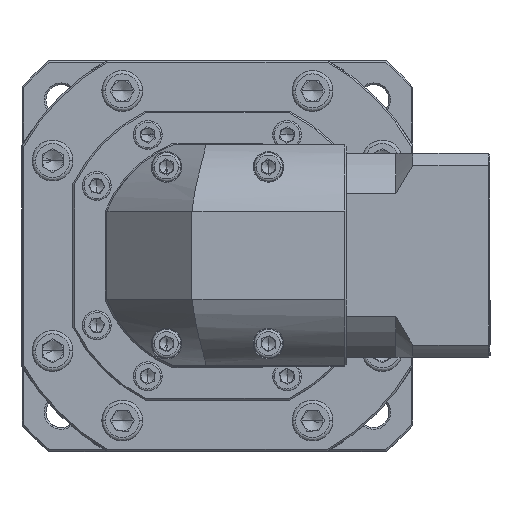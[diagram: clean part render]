
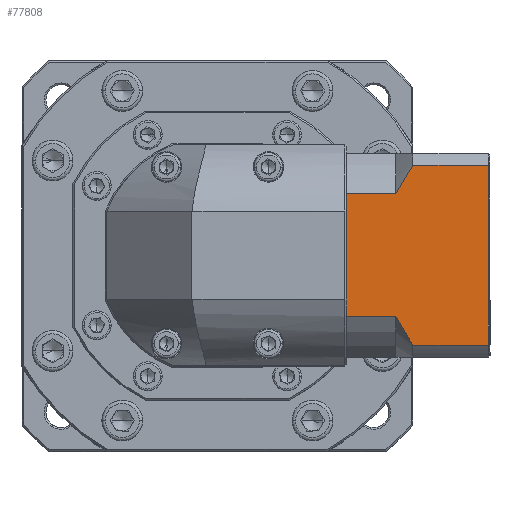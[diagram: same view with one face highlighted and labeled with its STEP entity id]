
A CAD part, top view. The second image highlights one B-rep face of the part: STEP entity #77808.
In plain terms, the highlighted planar face has unit normal (0, 0, 1).
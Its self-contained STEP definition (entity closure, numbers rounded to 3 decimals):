
#717 = CARTESIAN_POINT ( 'NONE',  ( 123.638, 102.636, 59.081 ) ) ;
#4043 = CARTESIAN_POINT ( 'NONE',  ( 122.088, 105.518, 59.081 ) ) ;
#4063 = CARTESIAN_POINT ( 'NONE',  ( 149.788, 153.545, 59.081 ) ) ;
#5498 = PLANE ( 'NONE',  #126817 ) ;
#10499 = EDGE_CURVE ( 'NONE', #103596, #23905, #143465, .T. ) ;
#12396 = CARTESIAN_POINT ( 'NONE',  ( 122.838, 104.061, 59.081 ) ) ;
#12891 = CARTESIAN_POINT ( 'NONE',  ( 125.313, 99.83, 59.081 ) ) ;
#16678 = VECTOR ( 'NONE', #102355, 1000. ) ;
#17435 = CARTESIAN_POINT ( 'NONE',  ( 122.088, 97.088, 59.081 ) ) ;
#18551 = CARTESIAN_POINT ( 'NONE',  ( 127.088, 150.003, 59.081 ) ) ;
#18565 = DIRECTION ( 'NONE',  ( 0., 1., 0. ) ) ;
#19890 = LINE ( 'NONE', #129622, #23407 ) ;
#22356 = VECTOR ( 'NONE', #84756, 1000. ) ;
#23407 = VECTOR ( 'NONE', #18565, 1000. ) ;
#23565 = ORIENTED_EDGE ( 'NONE', *, *, #142691, .T. ) ;
#23905 = VERTEX_POINT ( 'NONE', #34164 ) ;
#24119 = CARTESIAN_POINT ( 'NONE',  ( 126.186, 98.451, 59.081 ) ) ;
#25032 = CARTESIAN_POINT ( 'NONE',  ( 149.288, 150.003, 59.081 ) ) ;
#26713 = CARTESIAN_POINT ( 'NONE',  ( 122.088, 141.573, 59.081 ) ) ;
#27675 = CARTESIAN_POINT ( 'NONE',  ( 122.088, 150.003, 59.081 ) ) ;
#34164 = CARTESIAN_POINT ( 'NONE',  ( 107.588, 140.582, 59.081 ) ) ;
#35835 = EDGE_CURVE ( 'NONE', #89180, #75181, #131184, .T. ) ;
#40239 = DIRECTION ( 'NONE',  ( 0., -1., 0. ) ) ;
#45626 = EDGE_CURVE ( 'NONE', #114085, #131891, #68449, .T. ) ;
#47890 = VECTOR ( 'NONE', #61459, 1000. ) ;
#48766 = EDGE_LOOP ( 'NONE', ( #132181, #114292, #85849, #92694, #129008, #118082, #23565, #114704, #127484, #90335 ) ) ;
#49579 = VERTEX_POINT ( 'NONE', #25032 ) ;
#52738 = EDGE_CURVE ( 'NONE', #127816, #49579, #19890, .T. ) ;
#55397 = CARTESIAN_POINT ( 'NONE',  ( 127.088, 97.088, 59.081 ) ) ;
#57493 = VERTEX_POINT ( 'NONE', #73247 ) ;
#57844 = DIRECTION ( 'NONE',  ( 0., -1., 0. ) ) ;
#61459 = DIRECTION ( 'NONE',  ( -1., 0., 0. ) ) ;
#62553 = CARTESIAN_POINT ( 'NONE',  ( 123.639, 144.457, 59.081 ) ) ;
#62694 = CARTESIAN_POINT ( 'NONE',  ( 122.088, 141.573, 59.081 ) ) ;
#63449 = VERTEX_POINT ( 'NONE', #75404 ) ;
#68449 = B_SPLINE_CURVE_WITH_KNOTS ( 'NONE', 3,
 ( #18551, #119279, #86034, #62553, #118309, #84126 ),
 .UNSPECIFIED., .F., .F.,
 ( 4, 2, 4 ),
 ( 0.052, 0.057, 0.062 ),
 .UNSPECIFIED. ) ;
#69705 = EDGE_CURVE ( 'NONE', #89180, #63449, #81405, .T. ) ;
#70608 = CARTESIAN_POINT ( 'NONE',  ( 107.588, 141.573, 59.081 ) ) ;
#73042 = DIRECTION ( 'NONE',  ( 0., -1., 0. ) ) ;
#73247 = CARTESIAN_POINT ( 'NONE',  ( 107.588, 106.509, 59.081 ) ) ;
#75181 = VERTEX_POINT ( 'NONE', #81944 ) ;
#75404 = CARTESIAN_POINT ( 'NONE',  ( 107.588, 105.518, 59.081 ) ) ;
#75695 = VECTOR ( 'NONE', #40239, 1000. ) ;
#76897 = VECTOR ( 'NONE', #140637, 1000. ) ;
#77808 = ADVANCED_FACE ( 'NONE', ( #125821 ), #5498, .F. ) ;
#81405 = LINE ( 'NONE', #115129, #16678 ) ;
#81913 = LINE ( 'NONE', #62694, #22356 ) ;
#81944 = CARTESIAN_POINT ( 'NONE',  ( 127.088, 97.088, 59.081 ) ) ;
#82287 = DIRECTION ( 'NONE',  ( 1., 0., 0. ) ) ;
#83344 = CARTESIAN_POINT ( 'NONE',  ( 107.588, 153.545, 59.081 ) ) ;
#84126 = CARTESIAN_POINT ( 'NONE',  ( 122.088, 141.573, 59.081 ) ) ;
#84431 = LINE ( 'NONE', #131218, #75695 ) ;
#84756 = DIRECTION ( 'NONE',  ( 1., 0., 0. ) ) ;
#85849 = ORIENTED_EDGE ( 'NONE', *, *, #96041, .F. ) ;
#86034 = CARTESIAN_POINT ( 'NONE',  ( 125.315, 147.264, 59.081 ) ) ;
#89180 = VERTEX_POINT ( 'NONE', #4043 ) ;
#90335 = ORIENTED_EDGE ( 'NONE', *, *, #35835, .T. ) ;
#92694 = ORIENTED_EDGE ( 'NONE', *, *, #45626, .T. ) ;
#94860 = LINE ( 'NONE', #137555, #110495 ) ;
#96041 = EDGE_CURVE ( 'NONE', #114085, #49579, #118848, .T. ) ;
#101525 = EDGE_CURVE ( 'NONE', #57493, #63449, #84431, .T. ) ;
#102355 = DIRECTION ( 'NONE',  ( -1., 0., 0. ) ) ;
#103596 = VERTEX_POINT ( 'NONE', #70608 ) ;
#105531 = LINE ( 'NONE', #17435, #47890 ) ;
#107456 = EDGE_CURVE ( 'NONE', #127816, #75181, #105531, .T. ) ;
#110495 = VECTOR ( 'NONE', #57844, 1000. ) ;
#114085 = VERTEX_POINT ( 'NONE', #144931 ) ;
#114292 = ORIENTED_EDGE ( 'NONE', *, *, #52738, .T. ) ;
#114704 = ORIENTED_EDGE ( 'NONE', *, *, #101525, .T. ) ;
#115129 = CARTESIAN_POINT ( 'NONE',  ( 122.088, 105.518, 59.081 ) ) ;
#117045 = EDGE_CURVE ( 'NONE', #103596, #131891, #81913, .T. ) ;
#118082 = ORIENTED_EDGE ( 'NONE', *, *, #10499, .T. ) ;
#118309 = CARTESIAN_POINT ( 'NONE',  ( 122.836, 143.025, 59.081 ) ) ;
#118848 = LINE ( 'NONE', #27675, #76897 ) ;
#119279 = CARTESIAN_POINT ( 'NONE',  ( 126.188, 148.643, 59.081 ) ) ;
#124365 = CARTESIAN_POINT ( 'NONE',  ( 122.088, 105.518, 59.081 ) ) ;
#125821 = FACE_OUTER_BOUND ( 'NONE', #48766, .T. ) ;
#126817 = AXIS2_PLACEMENT_3D ( 'NONE', #4063, #138943, #82287 ) ;
#127003 = CARTESIAN_POINT ( 'NONE',  ( 149.288, 97.088, 59.081 ) ) ;
#127484 = ORIENTED_EDGE ( 'NONE', *, *, #69705, .F. ) ;
#127816 = VERTEX_POINT ( 'NONE', #127003 ) ;
#129008 = ORIENTED_EDGE ( 'NONE', *, *, #117045, .F. ) ;
#129467 = VECTOR ( 'NONE', #73042, 1000. ) ;
#129622 = CARTESIAN_POINT ( 'NONE',  ( 149.288, 153.545, 59.081 ) ) ;
#131184 = B_SPLINE_CURVE_WITH_KNOTS ( 'NONE', 3,
 ( #124365, #12396, #717, #12891, #24119, #55397 ),
 .UNSPECIFIED., .F., .F.,
 ( 4, 2, 4 ),
 ( 0.1, 0.104, 0.109 ),
 .UNSPECIFIED. ) ;
#131218 = CARTESIAN_POINT ( 'NONE',  ( 107.588, 153.545, 59.081 ) ) ;
#131891 = VERTEX_POINT ( 'NONE', #26713 ) ;
#132181 = ORIENTED_EDGE ( 'NONE', *, *, #107456, .F. ) ;
#137555 = CARTESIAN_POINT ( 'NONE',  ( 107.588, 153.545, 59.081 ) ) ;
#138943 = DIRECTION ( 'NONE',  ( 0., 0., -1. ) ) ;
#140637 = DIRECTION ( 'NONE',  ( 1., 0., 0. ) ) ;
#142691 = EDGE_CURVE ( 'NONE', #23905, #57493, #94860, .T. ) ;
#143465 = LINE ( 'NONE', #83344, #129467 ) ;
#144931 = CARTESIAN_POINT ( 'NONE',  ( 127.088, 150.003, 59.081 ) ) ;
